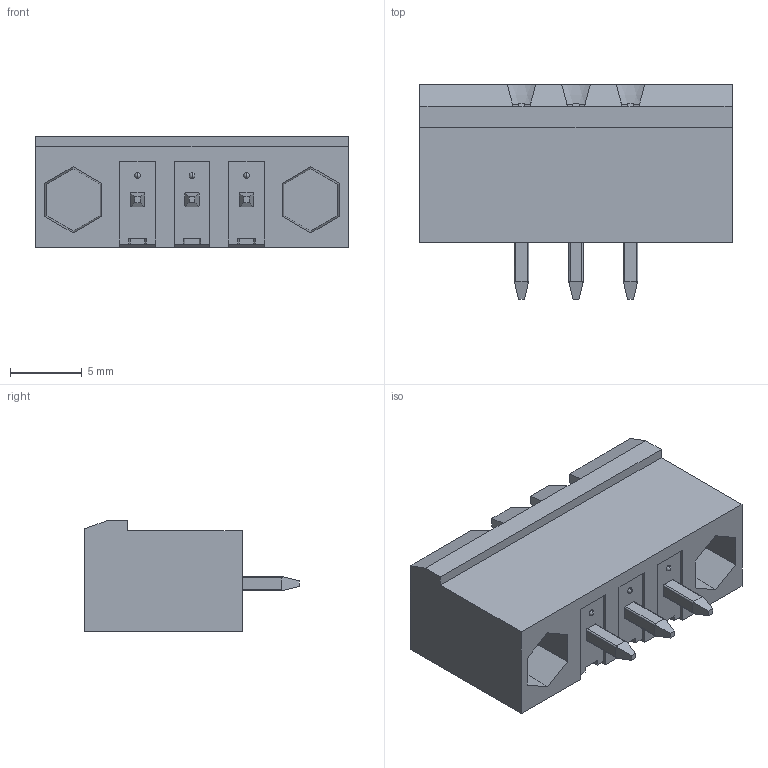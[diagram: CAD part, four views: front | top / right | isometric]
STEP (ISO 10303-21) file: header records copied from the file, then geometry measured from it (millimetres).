
FILE_DESCRIPTION((''),'2;1');
FILE_NAME('3','2019-05-08T',('zhenbing.lai'),(''),'CREO PARAMETRIC BY PTC INC, 2016260','CREO PARAMETRIC BY PTC INC, 2016260','');
FILE_SCHEMA(('CONFIG_CONTROL_DESIGN'));
Length unit declared in the file: millimetre
Products named in the file (1): 3
Bounding box: 21.82 x 15 x 7.7 mm (x, y, z)
Volume: 1213.7 mm3; surface area: 1388.9 mm2
Topology: 1 solids, 1 shells, 187 faces, 509 edges, 331 vertices
Faces by surface type: plane 147, cylinder 27, cone 7, sphere 6
Entity records: 5945 total; most frequent: CARTESIAN_POINT 1270, ORIENTED_EDGE 1006, DIRECTION 876, EDGE_CURVE 503, VECTOR 396, LINE 396, VERTEX_POINT 331, AXIS2_PLACEMENT_3D 240
